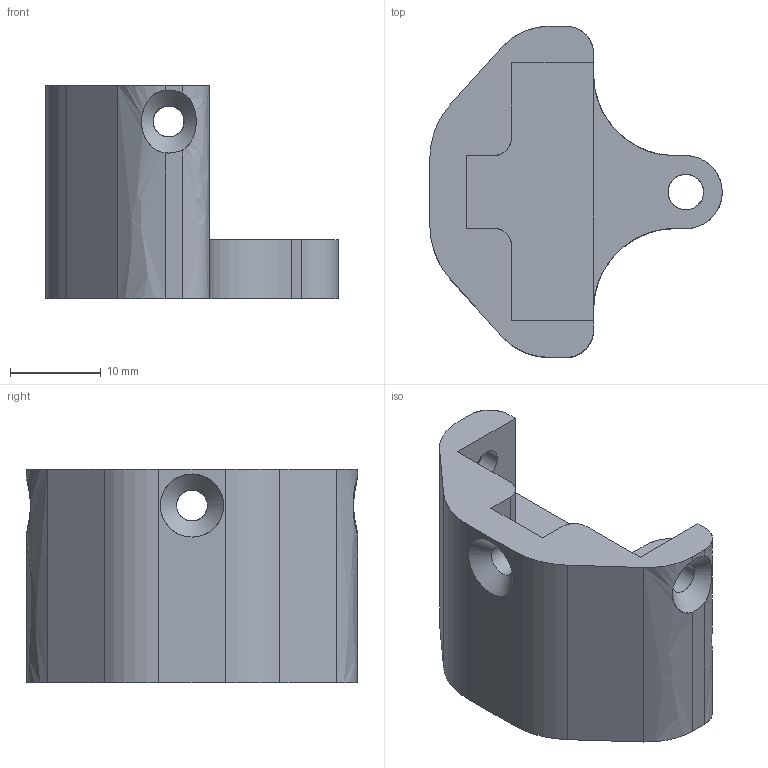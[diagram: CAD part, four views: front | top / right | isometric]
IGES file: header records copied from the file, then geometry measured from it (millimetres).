
Global section: file name: C:\Users\gehrichcr\Documents\1 Drive Backup\Practice\Inspire\V1.5\IGES\Gimbal Frame V1.5.igs; native system: NX V8.5; preprocessor: SIEMENS PLM Software NX 8.5; date: 20150608.102059; units: millimetre
Bounding box: 32.15 x 36.4 x 23.5 mm (x, y, z)
Surface area: 4379.4 mm2 (no closed solid volume)
Topology: 0 solids, 0 shells, 45 faces, 368 edges, 354 vertices
Faces by surface type: bspline 45
